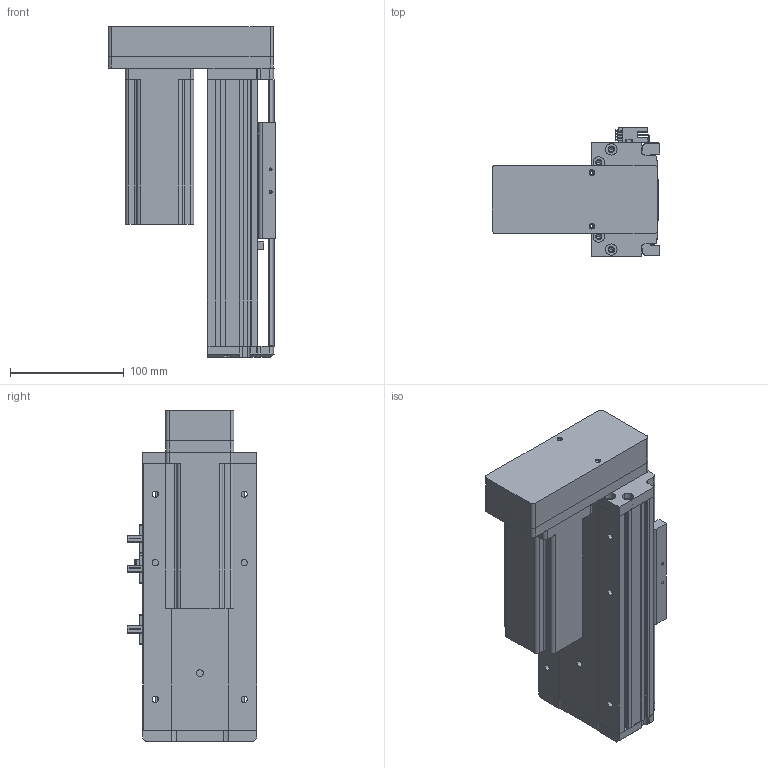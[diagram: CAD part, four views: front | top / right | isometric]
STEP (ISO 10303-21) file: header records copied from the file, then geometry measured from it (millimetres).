
FILE_DESCRIPTION (( 'STEP AP214' ), '1' );
FILE_NAME ('KSD100S-S50-MD-CM.STEP', '2019-08-30T01:32:30', ( '微软用户' ), ( '微软中国' ), 'SwSTEP 2.0', 'SolidWorks 2014', '' );
FILE_SCHEMA (( 'AUTOMOTIVE_DESIGN' ));
Length unit declared in the file: millimetre
Products named in the file (11): 100遵鎮湛假蚾啣; 100宽滚珠螺姆安装板半封闭; 100遵傷啣; 100宽底板半封闭丝杆50行程; KSD100S-S50-MD-CM; 悵誘欶奻狟殏; 100宽马达安装板连板上下折丝杆同步带; 台达ECMA－C20604AS伺服电机; 覜茼え100遵圉猾敕; U倰嫖萇EEㄜSX672; 100宽防尘板丝杆50行程
Assembly tree (12 placements, depth 2):
  KSD100S-S50-MD-CM
    100宽底板半封闭丝杆50行程
    100遵傷啣
    100宽滚珠螺姆安装板半封闭
    100遵鎮湛假蚾啣
    100宽防尘板丝杆50行程
    U倰嫖萇EEㄜSX672  x3
    覜茼え100遵圉猾敕
    台达ECMA－C20604AS伺服电机
    100宽马达安装板连板上下折丝杆同步带
    悵誘欶奻狟殏
Bounding box: 147 x 113.7 x 290.5 mm (x, y, z)
Volume: 1193052.4 mm3; surface area: 330186.7 mm2
Topology: 13 solids, 13 shells, 1073 faces, 3000 edges, 1931 vertices
Faces by surface type: cylinder 502, plane 488, cone 83
Entity records: 36869 total; most frequent: CARTESIAN_POINT 6185, DIRECTION 4959, ORIENTED_EDGE 4740, EDGE_CURVE 2370, AXIS2_PLACEMENT_3D 1781, VERTEX_POINT 1555, LINE 1397, VECTOR 1397
